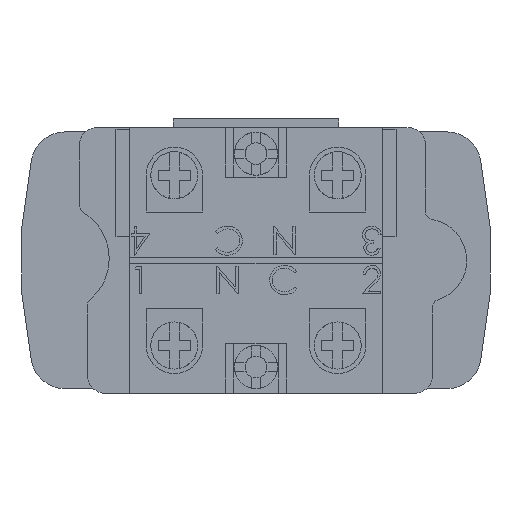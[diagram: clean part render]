
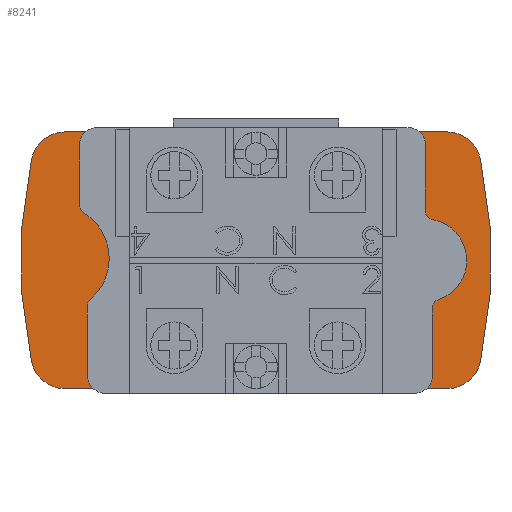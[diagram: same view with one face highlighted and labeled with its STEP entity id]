
A CAD part, front view. The second image highlights one B-rep face of the part: STEP entity #8241.
In plain terms, the highlighted planar face has unit normal (0, -1, 0).
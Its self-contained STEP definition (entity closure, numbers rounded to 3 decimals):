
#12 = EDGE_CURVE ( 'NONE', #4900, #4893, #1625, .T. ) ;
#91 = EDGE_CURVE ( 'NONE', #4893, #4900, #1571, .T. ) ;
#716 = ORIENTED_EDGE ( 'NONE', *, *, #12, .F. ) ;
#717 = ORIENTED_EDGE ( 'NONE', *, *, #91, .F. ) ;
#719 = ORIENTED_EDGE ( 'NONE', *, *, #8386, .T. ) ;
#720 = ORIENTED_EDGE ( 'NONE', *, *, #8385, .F. ) ;
#721 = ORIENTED_EDGE ( 'NONE', *, *, #8384, .T. ) ;
#722 = ORIENTED_EDGE ( 'NONE', *, *, #8383, .T. ) ;
#723 = ORIENTED_EDGE ( 'NONE', *, *, #8382, .T. ) ;
#724 = ORIENTED_EDGE ( 'NONE', *, *, #8379, .T. ) ;
#725 = ORIENTED_EDGE ( 'NONE', *, *, #8381, .F. ) ;
#726 = ORIENTED_EDGE ( 'NONE', *, *, #8380, .F. ) ;
#1571 = CIRCLE ( 'NONE', #2722, 12.9 ) ;
#1625 = CIRCLE ( 'NONE', #2648, 12.9 ) ;
#2648 = AXIS2_PLACEMENT_3D ( 'NONE', #6480, #6481, #6482 ) ;
#2722 = AXIS2_PLACEMENT_3D ( 'NONE', #6749, #6750, #6751 ) ;
#4893 = VERTEX_POINT ( 'NONE', #16284 ) ;
#4900 = VERTEX_POINT ( 'NONE', #16291 ) ;
#6113 = VERTEX_POINT ( 'NONE', #16994 ) ;
#6114 = VERTEX_POINT ( 'NONE', #16995 ) ;
#6115 = VERTEX_POINT ( 'NONE', #16996 ) ;
#6116 = VERTEX_POINT ( 'NONE', #16997 ) ;
#6117 = VERTEX_POINT ( 'NONE', #16998 ) ;
#6118 = VERTEX_POINT ( 'NONE', #16999 ) ;
#6119 = VERTEX_POINT ( 'NONE', #17000 ) ;
#6120 = VERTEX_POINT ( 'NONE', #17001 ) ;
#6480 = CARTESIAN_POINT ( 'NONE',  ( 0., 13.05, 0. ) ) ;
#6481 = DIRECTION ( 'NONE',  ( 0., -1., 0. ) ) ;
#6482 = DIRECTION ( 'NONE',  ( 0., 0., -1. ) ) ;
#6749 = CARTESIAN_POINT ( 'NONE',  ( 0., 13.05, 0. ) ) ;
#6750 = DIRECTION ( 'NONE',  ( 0., -1., 0. ) ) ;
#6751 = DIRECTION ( 'NONE',  ( 0., 0., -1. ) ) ;
#8241 = ADVANCED_FACE ( 'NONE', ( #19744, #19748 ), #19397, .T. ) ;
#8379 = EDGE_CURVE ( 'NONE', #6120, #6118, #15373, .T. ) ;
#8380 = EDGE_CURVE ( 'NONE', #6120, #6119, #15374, .T. ) ;
#8381 = EDGE_CURVE ( 'NONE', #6117, #6118, #20554, .T. ) ;
#8382 = EDGE_CURVE ( 'NONE', #6117, #6116, #15375, .T. ) ;
#8383 = EDGE_CURVE ( 'NONE', #6116, #6115, #15376, .T. ) ;
#8384 = EDGE_CURVE ( 'NONE', #6115, #6114, #15377, .T. ) ;
#8385 = EDGE_CURVE ( 'NONE', #6113, #6114, #20566, .T. ) ;
#8386 = EDGE_CURVE ( 'NONE', #6113, #6119, #15378, .T. ) ;
#15373 = CIRCLE ( 'NONE', #20016, 4. ) ;
#15374 = CIRCLE ( 'NONE', #20019, 55.391 ) ;
#15375 = CIRCLE ( 'NONE', #20020, 4. ) ;
#15376 = CIRCLE ( 'NONE', #20018, 55.391 ) ;
#15377 = CIRCLE ( 'NONE', #20017, 4. ) ;
#15378 = CIRCLE ( 'NONE', #20022, 4. ) ;
#16284 = CARTESIAN_POINT ( 'NONE',  ( 0., 13.05, 12.9 ) ) ;
#16291 = CARTESIAN_POINT ( 'NONE',  ( 0., 13.05, -12.9 ) ) ;
#16994 = CARTESIAN_POINT ( 'NONE',  ( -21.863, 13.05, 14.75 ) ) ;
#16995 = CARTESIAN_POINT ( 'NONE',  ( 21.863, 13.05, 14.75 ) ) ;
#16996 = CARTESIAN_POINT ( 'NONE',  ( 25.775, 13.05, 11.587 ) ) ;
#16997 = CARTESIAN_POINT ( 'NONE',  ( 25.775, 13.05, -11.587 ) ) ;
#16998 = CARTESIAN_POINT ( 'NONE',  ( 21.863, 13.05, -14.75 ) ) ;
#16999 = CARTESIAN_POINT ( 'NONE',  ( -21.863, 13.05, -14.75 ) ) ;
#17000 = CARTESIAN_POINT ( 'NONE',  ( -25.775, 13.05, 11.587 ) ) ;
#17001 = CARTESIAN_POINT ( 'NONE',  ( -25.775, 13.05, -11.587 ) ) ;
#19397 = PLANE ( 'NONE',  #19751 ) ;
#19398 = CARTESIAN_POINT ( 'NONE',  ( 0., 13.05, 0. ) ) ;
#19399 = DIRECTION ( 'NONE',  ( 0., -1., 0. ) ) ;
#19400 = DIRECTION ( 'NONE',  ( 0., 0., -1. ) ) ;
#19744 = FACE_OUTER_BOUND ( 'NONE', #24472, .T. ) ;
#19748 = FACE_BOUND ( 'NONE', #24473, .T. ) ;
#19751 = AXIS2_PLACEMENT_3D ( 'NONE', #19398, #19399, #19400 ) ;
#20016 = AXIS2_PLACEMENT_3D ( 'NONE', #20547, #20548, #20549 ) ;
#20017 = AXIS2_PLACEMENT_3D ( 'NONE', #20562, #20563, #20564 ) ;
#20018 = AXIS2_PLACEMENT_3D ( 'NONE', #20559, #20560, #20561 ) ;
#20019 = AXIS2_PLACEMENT_3D ( 'NONE', #20550, #20551, #20552 ) ;
#20020 = AXIS2_PLACEMENT_3D ( 'NONE', #20553, #20557, #20558 ) ;
#20021 = VECTOR ( 'NONE', #20556, 1000. ) ;
#20022 = AXIS2_PLACEMENT_3D ( 'NONE', #20565, #20569, #20570 ) ;
#20023 = VECTOR ( 'NONE', #20568, 1000. ) ;
#20547 = CARTESIAN_POINT ( 'NONE',  ( -21.863, 13.05, -10.75 ) ) ;
#20548 = DIRECTION ( 'NONE',  ( 0., -1., 0. ) ) ;
#20549 = DIRECTION ( 'NONE',  ( 0., 0., -1. ) ) ;
#20550 = CARTESIAN_POINT ( 'NONE',  ( 28.391, 13.05, 0. ) ) ;
#20551 = DIRECTION ( 'NONE',  ( 0., 1., 0. ) ) ;
#20552 = DIRECTION ( 'NONE',  ( 0., 0., -1. ) ) ;
#20553 = CARTESIAN_POINT ( 'NONE',  ( 21.863, 13.05, -10.75 ) ) ;
#20554 = LINE ( 'NONE', #20555, #20021 ) ;
#20555 = CARTESIAN_POINT ( 'NONE',  ( -25., 13.05, -14.75 ) ) ;
#20556 = DIRECTION ( 'NONE',  ( -1., 0., 0. ) ) ;
#20557 = DIRECTION ( 'NONE',  ( 0., -1., 0. ) ) ;
#20558 = DIRECTION ( 'NONE',  ( 0., 0., -1. ) ) ;
#20559 = CARTESIAN_POINT ( 'NONE',  ( -28.391, 13.05, 0. ) ) ;
#20560 = DIRECTION ( 'NONE',  ( 0., -1., 0. ) ) ;
#20561 = DIRECTION ( 'NONE',  ( 0., 0., -1. ) ) ;
#20562 = CARTESIAN_POINT ( 'NONE',  ( 21.863, 13.05, 10.75 ) ) ;
#20563 = DIRECTION ( 'NONE',  ( 0., -1., 0. ) ) ;
#20564 = DIRECTION ( 'NONE',  ( 0., 0., -1. ) ) ;
#20565 = CARTESIAN_POINT ( 'NONE',  ( -21.863, 13.05, 10.75 ) ) ;
#20566 = LINE ( 'NONE', #20567, #20023 ) ;
#20567 = CARTESIAN_POINT ( 'NONE',  ( -25., 13.05, 14.75 ) ) ;
#20568 = DIRECTION ( 'NONE',  ( 1., 0., 0. ) ) ;
#20569 = DIRECTION ( 'NONE',  ( 0., -1., 0. ) ) ;
#20570 = DIRECTION ( 'NONE',  ( 0., 0., -1. ) ) ;
#24472 = EDGE_LOOP ( 'NONE', ( #726, #724, #725, #723, #722, #721, #720, #719 ) ) ;
#24473 = EDGE_LOOP ( 'NONE', ( #716, #717 ) ) ;
